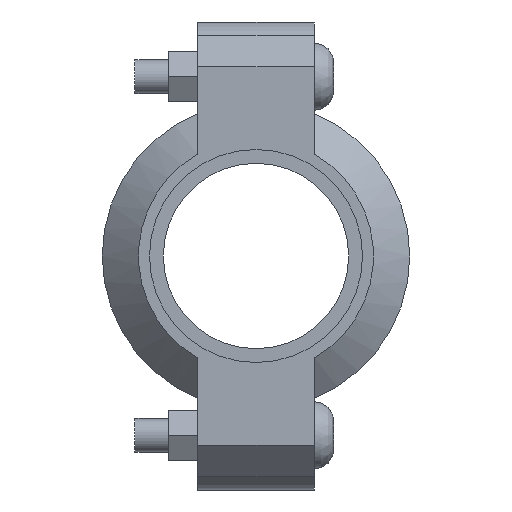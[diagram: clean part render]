
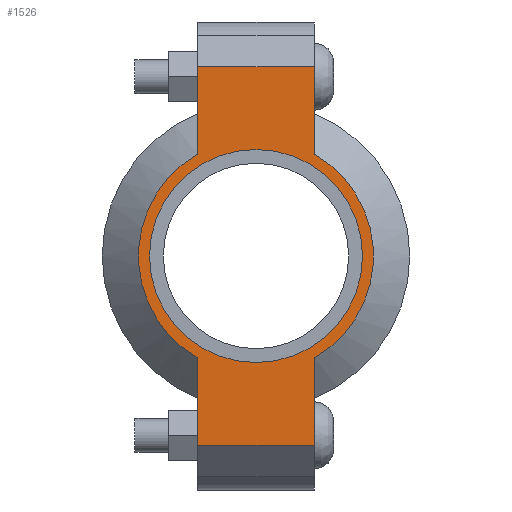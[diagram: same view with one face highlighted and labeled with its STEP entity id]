
A CAD part, left-side view. The second image highlights one B-rep face of the part: STEP entity #1526.
In plain terms, the highlighted planar face has unit normal (-1, 0, 0) as drawn and (0, 0, 1) by its records, which use the part's own axes.
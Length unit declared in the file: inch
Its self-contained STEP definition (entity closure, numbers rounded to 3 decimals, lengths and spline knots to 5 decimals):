
#150=LINE('',#2663,#243);
#158=LINE('',#2699,#251);
#165=LINE('',#2720,#258);
#174=LINE('',#2752,#267);
#175=LINE('',#2756,#268);
#176=LINE('',#2758,#269);
#243=VECTOR('',#2175,0.3937);
#251=VECTOR('',#2191,0.3937);
#258=VECTOR('',#2210,0.3937);
#267=VECTOR('',#2235,0.3937);
#268=VECTOR('',#2240,0.3937);
#269=VECTOR('',#2241,0.3937);
#325=FACE_BOUND('',#503,.T.);
#397=FACE_OUTER_BOUND('',#502,.T.);
#502=EDGE_LOOP('',(#1267,#1268,#1269,#1270,#1271,#1272,#1273,#1274));
#503=EDGE_LOOP('',(#1275));
#575=CIRCLE('',#1745,1.1875);
#601=CIRCLE('',#1804,1.31);
#602=CIRCLE('',#1805,1.31);
#667=VERTEX_POINT('',#2479);
#710=VERTEX_POINT('',#2660);
#711=VERTEX_POINT('',#2662);
#722=VERTEX_POINT('',#2694);
#723=VERTEX_POINT('',#2698);
#730=VERTEX_POINT('',#2717);
#731=VERTEX_POINT('',#2719);
#741=VERTEX_POINT('',#2755);
#742=VERTEX_POINT('',#2757);
#823=EDGE_CURVE('',#667,#667,#575,.T.);
#884=EDGE_CURVE('',#711,#710,#150,.T.);
#898=EDGE_CURVE('',#723,#722,#158,.T.);
#908=EDGE_CURVE('',#731,#730,#165,.T.);
#923=EDGE_CURVE('',#723,#710,#174,.T.);
#924=EDGE_CURVE('',#722,#731,#601,.T.);
#925=EDGE_CURVE('',#741,#730,#175,.T.);
#926=EDGE_CURVE('',#741,#742,#176,.T.);
#927=EDGE_CURVE('',#742,#711,#602,.T.);
#1267=ORIENTED_EDGE('',*,*,#923,.F.);
#1268=ORIENTED_EDGE('',*,*,#898,.T.);
#1269=ORIENTED_EDGE('',*,*,#924,.T.);
#1270=ORIENTED_EDGE('',*,*,#908,.T.);
#1271=ORIENTED_EDGE('',*,*,#925,.F.);
#1272=ORIENTED_EDGE('',*,*,#926,.T.);
#1273=ORIENTED_EDGE('',*,*,#927,.T.);
#1274=ORIENTED_EDGE('',*,*,#884,.T.);
#1275=ORIENTED_EDGE('',*,*,#823,.T.);
#1368=PLANE('',#1803);
#1526=ADVANCED_FACE('',(#397,#325),#1368,.T.);
#1745=AXIS2_PLACEMENT_3D('',#2481,#2051,#2052);
#1803=AXIS2_PLACEMENT_3D('',#2753,#2236,#2237);
#1804=AXIS2_PLACEMENT_3D('',#2754,#2238,#2239);
#1805=AXIS2_PLACEMENT_3D('',#2759,#2242,#2243);
#2051=DIRECTION('center_axis',(0.,0.,-1.));
#2052=DIRECTION('ref_axis',(-1.,0.,0.));
#2175=DIRECTION('',(-1.,0.,0.));
#2191=DIRECTION('',(1.,0.,0.));
#2210=DIRECTION('',(1.,0.,0.));
#2235=DIRECTION('',(0.,1.,0.));
#2236=DIRECTION('center_axis',(0.,0.,1.));
#2237=DIRECTION('ref_axis',(1.,0.,0.));
#2238=DIRECTION('center_axis',(0.,0.,1.));
#2239=DIRECTION('ref_axis',(-1.,0.,0.));
#2240=DIRECTION('',(0.,-1.,0.));
#2241=DIRECTION('',(-1.,0.,0.));
#2242=DIRECTION('center_axis',(0.,0.,1.));
#2243=DIRECTION('ref_axis',(-1.,0.,0.));
#2479=CARTESIAN_POINT('',(1.1875,0.,0.94));
#2481=CARTESIAN_POINT('Origin',(0.,0.,0.94));
#2660=CARTESIAN_POINT('',(-2.11,0.65,0.94));
#2662=CARTESIAN_POINT('',(-1.13737,0.65,0.94));
#2663=CARTESIAN_POINT('',(-2.61,0.65,0.94));
#2694=CARTESIAN_POINT('',(-1.13737,-0.65,0.94));
#2698=CARTESIAN_POINT('',(-2.11,-0.65,0.94));
#2699=CARTESIAN_POINT('',(2.61,-0.65,0.94));
#2717=CARTESIAN_POINT('',(2.11,-0.65,0.94));
#2719=CARTESIAN_POINT('',(1.13737,-0.65,0.94));
#2720=CARTESIAN_POINT('',(2.61,-0.65,0.94));
#2752=CARTESIAN_POINT('',(-2.11,0.325,0.94));
#2753=CARTESIAN_POINT('Origin',(0.,0.,0.94));
#2754=CARTESIAN_POINT('Origin',(0.,0.,0.94));
#2755=CARTESIAN_POINT('',(2.11,0.65,0.94));
#2756=CARTESIAN_POINT('',(2.11,-0.325,0.94));
#2757=CARTESIAN_POINT('',(1.13737,0.65,0.94));
#2758=CARTESIAN_POINT('',(-2.61,0.65,0.94));
#2759=CARTESIAN_POINT('Origin',(0.,0.,0.94));
